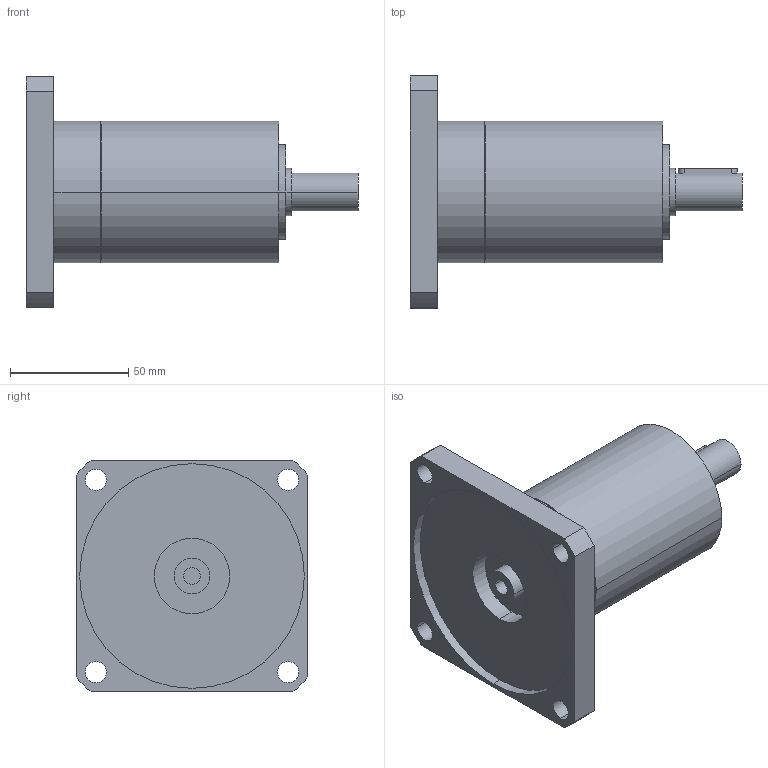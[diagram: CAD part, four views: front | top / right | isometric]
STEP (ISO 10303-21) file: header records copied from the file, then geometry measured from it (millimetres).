
FILE_DESCRIPTION(('CoCreate Modeling STEP Export'),'2;1');
FILE_NAME('GPR75_ig-9-12-16-20-24-30-36_16_B14_7_P08.stp','2014-08-25T16:05:17',(''),(''),'CoCreate Modeling STEP processor for AP214 (Solid Model)','CoCreate Modeling 16.00C 25-Feb-2009 (C) Parametric Technology GmbH','');
FILE_SCHEMA(('AUTOMOTIVE_DESIGN { 1 0 10303 214 1 1 1 1 }'));
Length unit declared in the file: millimetre
Products named in the file (2): GPR75_ig-9-12-16-20-24-30-36_16_B14_7_P08
Assembly tree (1 placements, depth 2):
  GPR75_ig-9-12-16-20-24-30-36_16_B14_7_P08
    GPR75_ig-9-12-16-20-24-30-36_16_B14_7_P08
Bounding box: 140.4 x 98 x 98 mm (x, y, z)
Volume: 351852.7 mm3; surface area: 47883.3 mm2
Topology: 1 solids, 1 shells, 70 faces, 188 edges, 132 vertices
Faces by surface type: cylinder 42, plane 22, cone 6
Entity records: 1939 total; most frequent: ORIENTED_EDGE 372, CARTESIAN_POINT 360, DIRECTION 262, EDGE_CURVE 186, VERTEX_POINT 132, AXIS2_PLACEMENT_3D 98, EDGE_LOOP 92, FACE_OUTER_BOUND 70
